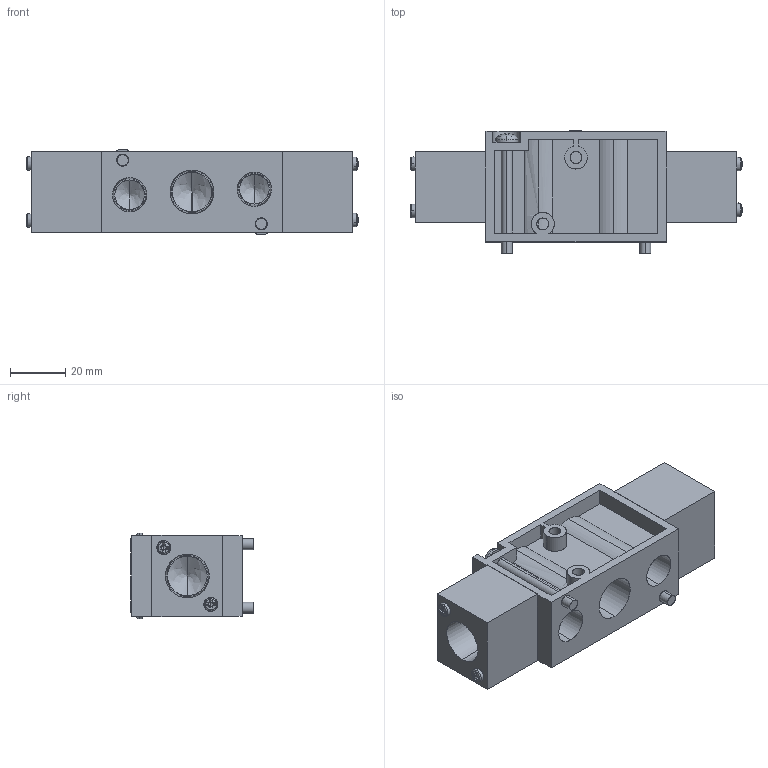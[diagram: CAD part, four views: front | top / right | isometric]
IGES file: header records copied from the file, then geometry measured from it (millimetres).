
Start section: SolidWorks IGES file using analytic representation for surfaces
Global section: file name: C:\Users\Toshiba\Desktop\YCD2408-03.IGS; native system: SolidWorks 2014; preprocessor: SolidWorks 2014; author: Toshiba; date: 160808.095601; units: millimetre
Bounding box: 119.89 x 44.12 x 31 mm (x, y, z)
Surface area: 29761.5 mm2 (no closed solid volume)
Topology: 0 solids, 0 shells, 412 faces, 4128 edges, 4102 vertices
Faces by surface type: bspline 264, revolution 148
